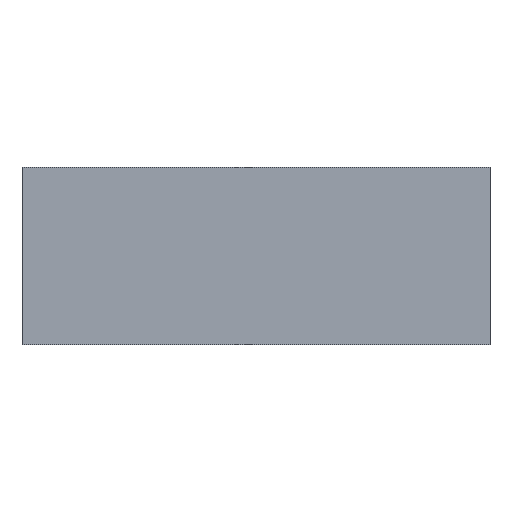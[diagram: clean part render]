
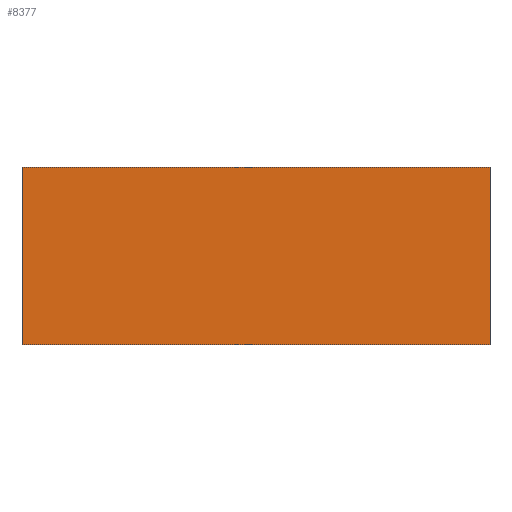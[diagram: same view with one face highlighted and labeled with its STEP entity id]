
A CAD part, left-side view. The second image highlights one B-rep face of the part: STEP entity #8377.
In plain terms, the highlighted planar face has unit normal (-1, 0, 0).
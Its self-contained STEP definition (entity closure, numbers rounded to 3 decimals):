
#885=FACE_OUTER_BOUND('',#1418,.T.);
#1418=EDGE_LOOP('',(#6611,#6612,#6613,#6614));
#2020=LINE('',#13116,#2854);
#2173=LINE('',#14079,#3007);
#2199=LINE('',#14131,#3033);
#2200=LINE('',#14132,#3034);
#2854=VECTOR('',#9678,10.);
#3007=VECTOR('',#9967,10.);
#3033=VECTOR('',#9995,10.);
#3034=VECTOR('',#9996,10.);
#3853=VERTEX_POINT('',#13113);
#3854=VERTEX_POINT('',#13115);
#4101=VERTEX_POINT('',#14078);
#4126=VERTEX_POINT('',#14130);
#4773=EDGE_CURVE('',#3853,#3854,#2020,.T.);
#5046=EDGE_CURVE('',#4101,#3853,#2173,.T.);
#5072=EDGE_CURVE('',#4126,#3854,#2199,.T.);
#5073=EDGE_CURVE('',#4126,#4101,#2200,.T.);
#6611=ORIENTED_EDGE('',*,*,#5072,.T.);
#6612=ORIENTED_EDGE('',*,*,#4773,.F.);
#6613=ORIENTED_EDGE('',*,*,#5046,.F.);
#6614=ORIENTED_EDGE('',*,*,#5073,.F.);
#8050=PLANE('',#8885);
#8377=ADVANCED_FACE('',(#885),#8050,.T.);
#8885=AXIS2_PLACEMENT_3D('',#14129,#9993,#9994);
#9678=DIRECTION('',(0.,1.,0.));
#9967=DIRECTION('',(0.,0.,-1.));
#9993=DIRECTION('center_axis',(-1.,0.,0.));
#9994=DIRECTION('ref_axis',(0.,1.,0.));
#9995=DIRECTION('',(0.,0.,-1.));
#9996=DIRECTION('',(0.,-1.,0.));
#13113=CARTESIAN_POINT('',(116.,24.,-5.));
#13115=CARTESIAN_POINT('',(116.,169.,-5.));
#13116=CARTESIAN_POINT('',(116.,24.,-5.));
#14078=CARTESIAN_POINT('',(116.,24.,50.));
#14079=CARTESIAN_POINT('',(116.,24.,0.));
#14129=CARTESIAN_POINT('Origin',(116.,24.,0.));
#14130=CARTESIAN_POINT('',(116.,169.,50.));
#14131=CARTESIAN_POINT('',(116.,169.,0.));
#14132=CARTESIAN_POINT('',(116.,24.,50.));
